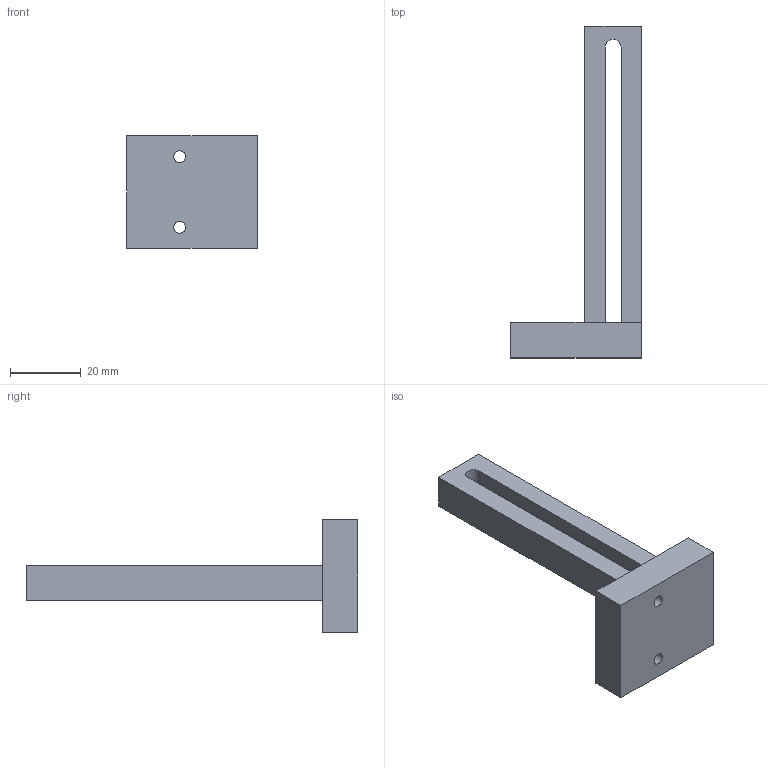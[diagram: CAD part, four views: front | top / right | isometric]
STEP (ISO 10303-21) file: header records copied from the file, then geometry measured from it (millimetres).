
FILE_DESCRIPTION(('Open CASCADE Model'),'2;1');
FILE_NAME('Open CASCADE Shape Model','2026-11-08T06:43:58',('Author'),( 'Open CASCADE'),'Open CASCADE STEP processor 7.8','Open CASCADE 7.8' ,'Unknown');
FILE_SCHEMA(('AUTOMOTIVE_DESIGN { 1 0 10303 214 1 1 1 1 }'));
Length unit declared in the file: millimetre
Products named in the file (1): Open CASCADE STEP translator 7.8 6
Bounding box: 37 x 94 x 32 mm (x, y, z)
Volume: 17523.4 mm3; surface area: 9322.8 mm2
Topology: 1 solids, 1 shells, 22 faces, 66 edges, 44 vertices
Faces by surface type: plane 18, cylinder 4
Full cylindrical faces by diameter (mm): 3.3 x2
Entity records: 1580 total; most frequent: CARTESIAN_POINT 303, DIRECTION 214, LINE 144, VECTOR 144, ORIENTED_EDGE 132, PCURVE 132, DEFINITIONAL_REPRESENTATION 132, EDGE_CURVE 66
